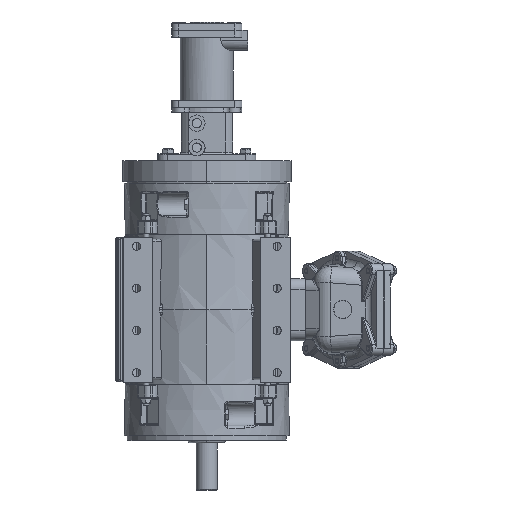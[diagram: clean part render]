
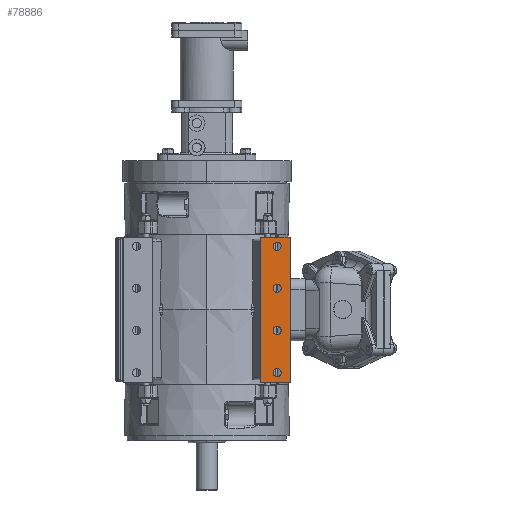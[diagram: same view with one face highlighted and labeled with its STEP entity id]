
A CAD part, front view. The second image highlights one B-rep face of the part: STEP entity #78886.
In plain terms, the highlighted planar face has unit normal (0, -1, 0).
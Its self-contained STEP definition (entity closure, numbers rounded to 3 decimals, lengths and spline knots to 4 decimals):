
#4124 = LINE ( 'NONE', #39417, #118677 ) ;
#4862 = CIRCLE ( 'NONE', #106321, 0.2185 ) ;
#8835 = DIRECTION ( 'NONE',  ( 0., 0., 1. ) ) ;
#9717 = ORIENTED_EDGE ( 'NONE', *, *, #92823, .F. ) ;
#9844 = DIRECTION ( 'NONE',  ( 0., -1., 0. ) ) ;
#11240 = EDGE_CURVE ( 'NONE', #109916, #90191, #125142, .T. ) ;
#15263 = CARTESIAN_POINT ( 'NONE',  ( 3.75, -4.48, 13.0107 ) ) ;
#16105 = LINE ( 'NONE', #88306, #45680 ) ;
#16170 = EDGE_CURVE ( 'NONE', #23436, #87811, #17256, .T. ) ;
#16313 = DIRECTION ( 'NONE',  ( 0., -1., 0. ) ) ;
#16714 = DIRECTION ( 'NONE',  ( 0., 0., 1. ) ) ;
#17256 = CIRCLE ( 'NONE', #88385, 0.2185 ) ;
#17614 = DIRECTION ( 'NONE',  ( -1., 0., 0. ) ) ;
#17748 = EDGE_CURVE ( 'NONE', #42836, #109294, #4124, .T. ) ;
#22017 = DIRECTION ( 'NONE',  ( 0., 0., 1. ) ) ;
#23345 = CARTESIAN_POINT ( 'NONE',  ( 4.44, -4.48, 13.4957 ) ) ;
#23436 = VERTEX_POINT ( 'NONE', #43348 ) ;
#25824 = CIRCLE ( 'NONE', #39804, 0.2185 ) ;
#27652 = DIRECTION ( 'NONE',  ( 0., 0., 1. ) ) ;
#30863 = CARTESIAN_POINT ( 'NONE',  ( 3.75, -4.48, 13.0107 ) ) ;
#33145 = PLANE ( 'NONE',  #144375 ) ;
#33205 = CARTESIAN_POINT ( 'NONE',  ( 3.75, -4.48, 8.5107 ) ) ;
#35476 = FACE_BOUND ( 'NONE', #42012, .T. ) ;
#36420 = DIRECTION ( 'NONE',  ( 0., -1., 0. ) ) ;
#37693 = ORIENTED_EDGE ( 'NONE', *, *, #148215, .F. ) ;
#39417 = CARTESIAN_POINT ( 'NONE',  ( 2.88, -4.48, 13.4957 ) ) ;
#39804 = AXIS2_PLACEMENT_3D ( 'NONE', #109713, #16313, #95245 ) ;
#40901 = EDGE_CURVE ( 'NONE', #77755, #103478, #4862, .T. ) ;
#40950 = DIRECTION ( 'NONE',  ( 0., -1., 0. ) ) ;
#41961 = ORIENTED_EDGE ( 'NONE', *, *, #71140, .F. ) ;
#42012 = EDGE_LOOP ( 'NONE', ( #37693, #89255 ) ) ;
#42836 = VERTEX_POINT ( 'NONE', #57580 ) ;
#43210 = EDGE_LOOP ( 'NONE', ( #56913, #146303, #41961, #43507 ) ) ;
#43348 = CARTESIAN_POINT ( 'NONE',  ( 3.75, -4.48, 8.2922 ) ) ;
#43507 = ORIENTED_EDGE ( 'NONE', *, *, #11240, .F. ) ;
#44226 = CARTESIAN_POINT ( 'NONE',  ( 3.75, -4.48, 6.2607 ) ) ;
#45579 = EDGE_CURVE ( 'NONE', #103478, #77755, #57816, .T. ) ;
#45680 = VECTOR ( 'NONE', #17614, 39.3701 ) ;
#48201 = EDGE_CURVE ( 'NONE', #109916, #109294, #66490, .T. ) ;
#56913 = ORIENTED_EDGE ( 'NONE', *, *, #48201, .T. ) ;
#57163 = CARTESIAN_POINT ( 'NONE',  ( 3.75, -4.48, 13.2292 ) ) ;
#57580 = CARTESIAN_POINT ( 'NONE',  ( 2.88, -4.48, 5.7457 ) ) ;
#57816 = CIRCLE ( 'NONE', #144283, 0.2185 ) ;
#59029 = CARTESIAN_POINT ( 'NONE',  ( 3.75, -4.48, 10.7607 ) ) ;
#59940 = EDGE_LOOP ( 'NONE', ( #125046, #142478 ) ) ;
#60908 = ORIENTED_EDGE ( 'NONE', *, *, #65400, .F. ) ;
#61503 = CARTESIAN_POINT ( 'NONE',  ( 4.44, -4.48, 13.4957 ) ) ;
#63107 = FACE_BOUND ( 'NONE', #59940, .T. ) ;
#63774 = CARTESIAN_POINT ( 'NONE',  ( 3.75, -4.48, 8.7292 ) ) ;
#65119 = CARTESIAN_POINT ( 'NONE',  ( 2.88, -4.48, 13.4957 ) ) ;
#65400 = EDGE_CURVE ( 'NONE', #134704, #138927, #151898, .T. ) ;
#66490 = LINE ( 'NONE', #76526, #123689 ) ;
#66896 = DIRECTION ( 'NONE',  ( 0., 0., 1. ) ) ;
#69928 = CARTESIAN_POINT ( 'NONE',  ( 3.75, -4.48, 6.4792 ) ) ;
#70223 = CARTESIAN_POINT ( 'NONE',  ( 3.75, -4.48, 10.9792 ) ) ;
#71140 = EDGE_CURVE ( 'NONE', #90191, #42836, #16105, .T. ) ;
#76526 = CARTESIAN_POINT ( 'NONE',  ( 4.28, -4.48, 13.4957 ) ) ;
#77755 = VERTEX_POINT ( 'NONE', #80596 ) ;
#78886 = ADVANCED_FACE ( 'NONE', ( #35476, #138849, #63107, #148123, #137063 ), #33145, .T. ) ;
#79566 = CARTESIAN_POINT ( 'NONE',  ( 6.4814, -4.48, 14.2057 ) ) ;
#80596 = CARTESIAN_POINT ( 'NONE',  ( 3.75, -4.48, 6.0422 ) ) ;
#82694 = AXIS2_PLACEMENT_3D ( 'NONE', #59029, #82842, #22017 ) ;
#82739 = VECTOR ( 'NONE', #120903, 39.3701 ) ;
#82842 = DIRECTION ( 'NONE',  ( 0., -1., 0. ) ) ;
#83944 = VERTEX_POINT ( 'NONE', #57163 ) ;
#87811 = VERTEX_POINT ( 'NONE', #63774 ) ;
#87900 = CARTESIAN_POINT ( 'NONE',  ( 3.75, -4.48, 12.7922 ) ) ;
#88306 = CARTESIAN_POINT ( 'NONE',  ( 4.28, -4.48, 5.7457 ) ) ;
#88385 = AXIS2_PLACEMENT_3D ( 'NONE', #33205, #118873, #119371 ) ;
#89255 = ORIENTED_EDGE ( 'NONE', *, *, #144402, .F. ) ;
#90191 = VERTEX_POINT ( 'NONE', #106278 ) ;
#91424 = DIRECTION ( 'NONE',  ( 0., -1., 0. ) ) ;
#91718 = DIRECTION ( 'NONE',  ( 0., 0., 1. ) ) ;
#92823 = EDGE_CURVE ( 'NONE', #138927, #134704, #25824, .T. ) ;
#95245 = DIRECTION ( 'NONE',  ( 0., 0., 1. ) ) ;
#102042 = DIRECTION ( 'NONE',  ( 0., -1., 0. ) ) ;
#103478 = VERTEX_POINT ( 'NONE', #69928 ) ;
#106278 = CARTESIAN_POINT ( 'NONE',  ( 4.44, -4.48, 5.7457 ) ) ;
#106321 = AXIS2_PLACEMENT_3D ( 'NONE', #143212, #36420, #141696 ) ;
#108862 = EDGE_LOOP ( 'NONE', ( #146571, #119083 ) ) ;
#109294 = VERTEX_POINT ( 'NONE', #65119 ) ;
#109713 = CARTESIAN_POINT ( 'NONE',  ( 3.75, -4.48, 10.7607 ) ) ;
#109916 = VERTEX_POINT ( 'NONE', #23345 ) ;
#110386 = AXIS2_PLACEMENT_3D ( 'NONE', #15263, #40950, #27652 ) ;
#111968 = EDGE_CURVE ( 'NONE', #87811, #23436, #119038, .T. ) ;
#113173 = EDGE_LOOP ( 'NONE', ( #60908, #9717 ) ) ;
#113415 = DIRECTION ( 'NONE',  ( 0., -1., 0. ) ) ;
#116678 = DIRECTION ( 'NONE',  ( 0., 0., 1. ) ) ;
#117565 = CIRCLE ( 'NONE', #151091, 0.2185 ) ;
#118603 = CIRCLE ( 'NONE', #110386, 0.2185 ) ;
#118677 = VECTOR ( 'NONE', #16714, 39.3701 ) ;
#118873 = DIRECTION ( 'NONE',  ( 0., -1., 0. ) ) ;
#119038 = CIRCLE ( 'NONE', #137427, 0.2185 ) ;
#119083 = ORIENTED_EDGE ( 'NONE', *, *, #40901, .F. ) ;
#119371 = DIRECTION ( 'NONE',  ( 0., 0., 1. ) ) ;
#120903 = DIRECTION ( 'NONE',  ( 0., 0., -1. ) ) ;
#123689 = VECTOR ( 'NONE', #124968, 39.3701 ) ;
#124968 = DIRECTION ( 'NONE',  ( -1., 0., 0. ) ) ;
#125046 = ORIENTED_EDGE ( 'NONE', *, *, #111968, .F. ) ;
#125142 = LINE ( 'NONE', #61503, #82739 ) ;
#134704 = VERTEX_POINT ( 'NONE', #70223 ) ;
#137063 = FACE_OUTER_BOUND ( 'NONE', #43210, .T. ) ;
#137427 = AXIS2_PLACEMENT_3D ( 'NONE', #140941, #9844, #116678 ) ;
#138849 = FACE_BOUND ( 'NONE', #113173, .T. ) ;
#138927 = VERTEX_POINT ( 'NONE', #146501 ) ;
#140941 = CARTESIAN_POINT ( 'NONE',  ( 3.75, -4.48, 8.5107 ) ) ;
#141696 = DIRECTION ( 'NONE',  ( 0., 0., 1. ) ) ;
#142478 = ORIENTED_EDGE ( 'NONE', *, *, #16170, .F. ) ;
#143212 = CARTESIAN_POINT ( 'NONE',  ( 3.75, -4.48, 6.2607 ) ) ;
#144283 = AXIS2_PLACEMENT_3D ( 'NONE', #44226, #102042, #91718 ) ;
#144375 = AXIS2_PLACEMENT_3D ( 'NONE', #79566, #91424, #8835 ) ;
#144402 = EDGE_CURVE ( 'NONE', #146535, #83944, #117565, .T. ) ;
#146303 = ORIENTED_EDGE ( 'NONE', *, *, #17748, .F. ) ;
#146501 = CARTESIAN_POINT ( 'NONE',  ( 3.75, -4.48, 10.5422 ) ) ;
#146535 = VERTEX_POINT ( 'NONE', #87900 ) ;
#146571 = ORIENTED_EDGE ( 'NONE', *, *, #45579, .F. ) ;
#148123 = FACE_BOUND ( 'NONE', #108862, .T. ) ;
#148215 = EDGE_CURVE ( 'NONE', #83944, #146535, #118603, .T. ) ;
#151091 = AXIS2_PLACEMENT_3D ( 'NONE', #30863, #113415, #66896 ) ;
#151898 = CIRCLE ( 'NONE', #82694, 0.2185 ) ;
